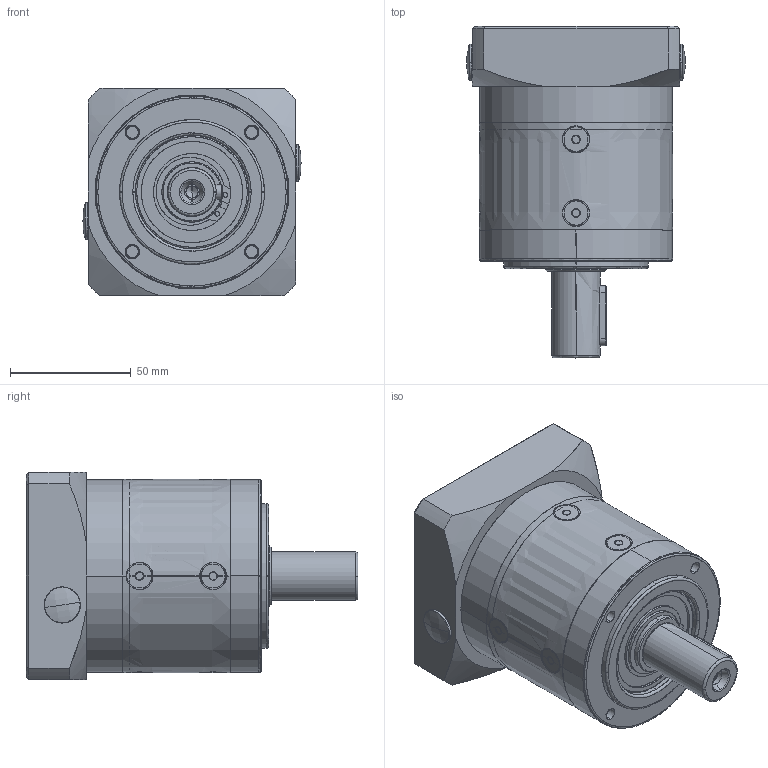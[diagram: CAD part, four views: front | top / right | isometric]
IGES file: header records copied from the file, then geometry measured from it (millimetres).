
Start section: SolidWorks IGES file using analytic representation for surfaces
Global section: file name: C:\TeknicPDM\Remarketed and Private Label Products\Gearboxes\Gearbox Customer Files\GSLL (Newstart PL Series)\GSLL-080-0_ _-N034_-XX Single Stage.IGS; native system: SolidWorks 2020; preprocessor: SolidWorks 2020; author: zeb_koch; date: 250826.105833; units: millimetre
Bounding box: 90.39 x 137.5 x 86 mm (x, y, z)
Surface area: 120609.1 mm2 (no closed solid volume)
Topology: 0 solids, 0 shells, 950 faces, 19521 edges, 19437 vertices
Faces by surface type: revolution 483, bspline 467
